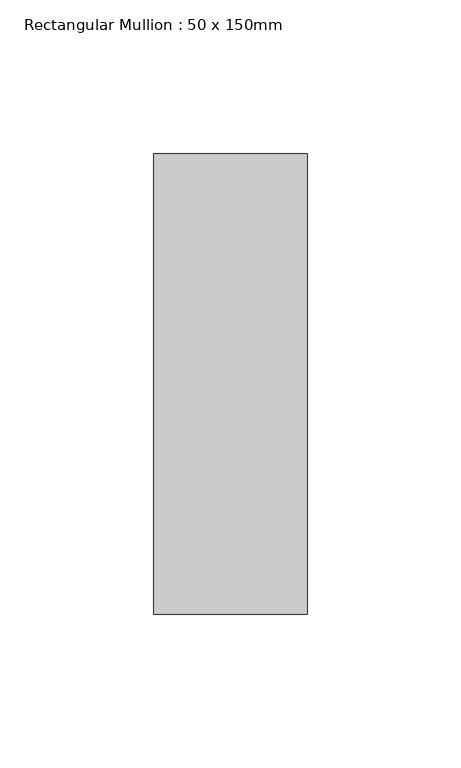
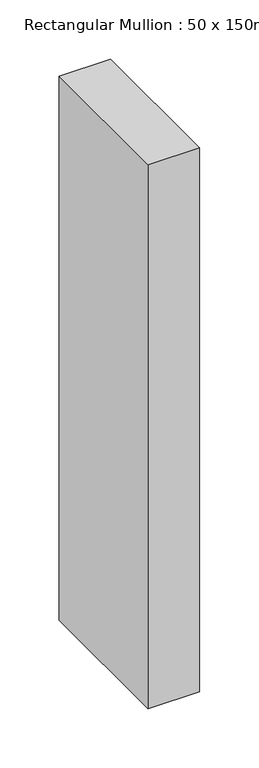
"""IFC4 building model written with IfcOpenShell, lengths in millimetres: member geometry, Rectangular Mullion : 50 x 150mm."""

from ifc_helpers import new_model, si_unit, frame, origin, place, context, project, spatial, polyline, outline, extrude, source, transform, mapped, element, save


def rectangular_mullion_50_x_150mm_6cfa6b5a(model_context):
    return source(origin(), model_context, "Body", "SweptSolid", [
        extrude(outline(polyline([(0.0, 75.0), (0.0, -75.0), (-50.0, -75.0), (-50.0, 75.0), (0.0, 75.0)])), frame((0.0, 0.0, -559.6), z_axis=(0.0, 0.0, 1.0), x_axis=(1.0, 0.0, 0.0)), (0.0, 0.0, 1.0), 559.6),
    ])


if __name__ == "__main__":
    model = new_model("IFC4")
    model_context = context("Model", 3, world=origin())
    ifc_project = project(units=[si_unit("LENGTHUNIT", "METRE", prefix="MILLI")], contexts=[model_context])
    site = spatial("IfcSite", under=ifc_project)
    building = spatial("IfcBuilding", under=site)
    placement = place(None, origin())
    rectangular_mullion_50_x_150mm_shape = rectangular_mullion_50_x_150mm_6cfa6b5a(model_context)
    element("IfcMember", 1, ObjectType="Rectangular Mullion : 50 x 150mm", at=placement, inside=building, context=model_context, shape_type="MappedRepresentation", body=[
        mapped(rectangular_mullion_50_x_150mm_shape, transform((0.0, 0.0, 0.0), x_axis=(1.0, 0.0, 0.0), y_axis=(0.0, 1.0, 0.0), z_axis=(0.0, 0.0, 1.0))),
    ])
    save(model, "model.ifc")
